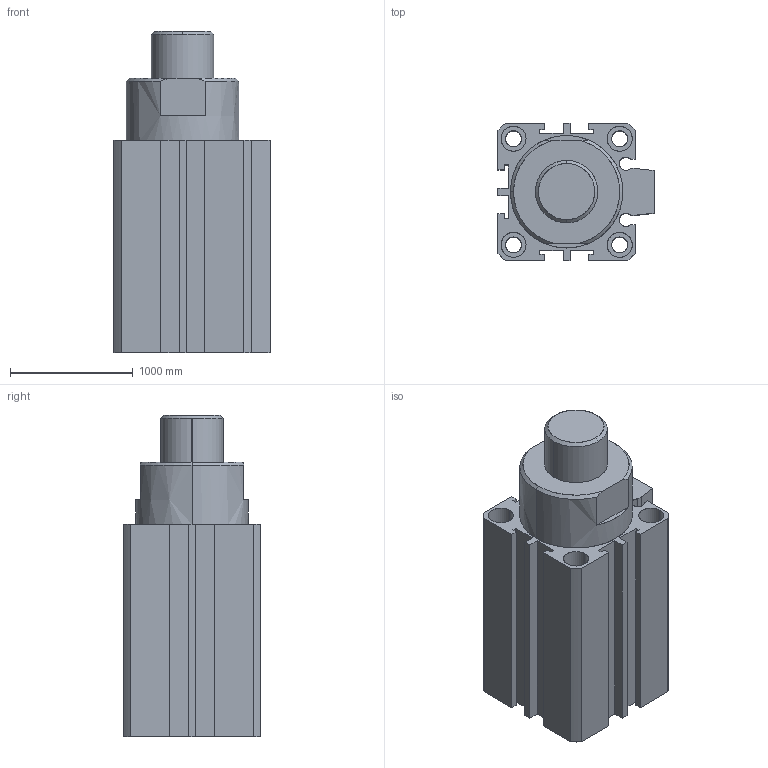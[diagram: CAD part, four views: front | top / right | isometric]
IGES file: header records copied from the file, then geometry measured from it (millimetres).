
Start section: SolidWorks IGES file using analytic representation for surfaces
Global section: file name: C:\Documents and Settings\Standard\Bureau\NM pieces 3d\ELO 32 15 tige sortie.IGS; native system: SolidWorks 2007; preprocessor: SolidWorks 2007; author: Standard; date: 080328.101904; units: inch
Bounding box: 1270 x 1117.6 x 2616.2 mm (x, y, z)
Surface area: 23212611 mm2 (no closed solid volume)
Topology: 0 solids, 0 shells, 528 faces, 13317 edges, 13355 vertices
Faces by surface type: bspline 481, revolution 47
